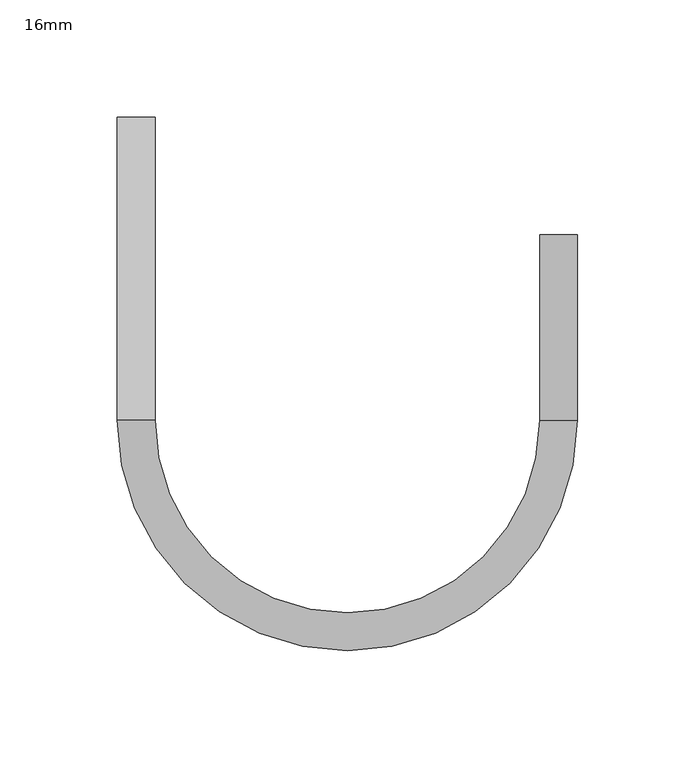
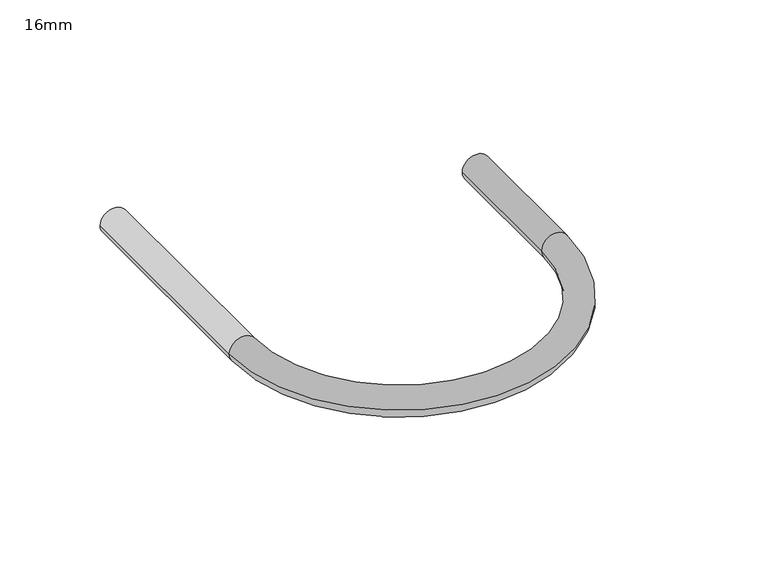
"""IFC4 building model written with IfcOpenShell, lengths in millimetres: pipe fitting geometry, PipeAccessory_HTA_CPVC_ExpansionJoints : 16mm."""

from ifc_helpers import new_model, si_unit, point, frame, origin, origin_with_axes, place, context, project, spatial, circle_curve, ellipse_curve, trimmed, source, transform, mapped, element, save
from ifc_brep_helpers import plane_surface, cylinder_surface, revolved_surface, advanced_brep


def pipe_fitting_16mm_a639df83(model_context):
    return source(origin(), model_context, "Body", "AdvancedBrep", [
        advanced_brep(
        [(82.0, 79.0, 0.0), (98.0, 79.0, 0.0), (82.0, 0.0, 0.0), (98.0, 0.0, 0.0), (-98.0, 0.0, 0.0), (-82.0, 0.0, 0.0), (-82.0, 129.0, 0.0), (-98.0, 129.0, 0.0)],
        [
            (0, 1, circle_curve(frame((90.0, 79.0, 0.0), z_axis=(0.0, 1.0, 0.0), x_axis=(1.0, 0.0, 0.0)), 8.0)),
            (1, 0, circle_curve(frame((90.0, 79.0, 0.0), z_axis=(0.0, 1.0, 0.0), x_axis=(1.0, 0.0, 0.0)), 8.0)),
            (0, 2),
            (2, 3, circle_curve(frame((90.0, 0.0, 0.0), z_axis=(0.0, 1.0, 0.0), x_axis=(1.0, 0.0, 0.0)), 8.0)),
            (3, 1),
            (3, 2, circle_curve(frame((90.0, 0.0, 0.0), z_axis=(0.0, 1.0, 0.0), x_axis=(1.0, 0.0, 0.0)), 8.0)),
            (4, 3, circle_curve(origin_with_axes(), 98.0)),
            (2, 5, circle_curve(frame((0.0, 0.0, 0.0), z_axis=(0.0, 0.0, -1.0), x_axis=(1.0, 0.0, 0.0)), 82.0)),
            (5, 4, circle_curve(frame((-90.0, 0.0, 0.0), z_axis=(0.0, -1.0, 0.0), x_axis=(-1.0, 0.0, 0.0)), 8.0)),
            (4, 5, circle_curve(frame((-90.0, 0.0, 0.0), z_axis=(0.0, -1.0, 0.0), x_axis=(-1.0, 0.0, 0.0)), 8.0)),
            (6, 7, circle_curve(frame((-90.0, 129.0, 0.0), z_axis=(0.0, 1.0, 0.0), x_axis=(-1.0, 0.0, 0.0)), 8.0)),
            (7, 6, circle_curve(frame((-90.0, 129.0, 0.0), z_axis=(0.0, 1.0, 0.0), x_axis=(-1.0, 0.0, 0.0)), 8.0)),
            (5, 6),
            (7, 4),
        ],
        [
            plane_surface(frame((90.0, 79.0, 0.0), z_axis=(0.0, 1.0, 0.0), x_axis=(0.0, 0.0, 1.0))),
            cylinder_surface(frame((90.0, 79.0, 0.0), z_axis=(0.0, 1.0, 0.0), x_axis=(1.0, 0.0, 0.0)), 8.0),
            revolved_surface(trimmed(ellipse_curve(frame((90.0, 0.0, 0.0), z_axis=(0.0, 1.0, 0.0), x_axis=(1.0, 0.0, 0.0)), 8.0, 8.0), [point((82.0, 0.0, 0.0))], [point((98.0, 0.0, 0.0))], True, "CARTESIAN"), (0.0, 0.0, 0.0), (0.0, 0.0, -1.0)),
            revolved_surface(trimmed(ellipse_curve(frame((90.0, 0.0, 0.0), z_axis=(0.0, 1.0, 0.0), x_axis=(1.0, 0.0, 0.0)), 8.0, 8.0), [point((98.0, 0.0, 0.0))], [point((82.0, 0.0, 0.0))], True, "CARTESIAN"), (0.0, 0.0, 0.0), (0.0, 0.0, -1.0)),
            plane_surface(frame((-90.0, 129.0, 0.0), z_axis=(0.0, 1.0, 0.0), x_axis=(0.0, 0.0, 1.0))),
            cylinder_surface(frame((-90.0, 0.0, 0.0), z_axis=(0.0, -1.0, 0.0), x_axis=(-1.0, 0.0, 0.0)), 8.0),
        ],
        [
            (0, [[1, 2]]),
            (1, [[-1, 3, 4, 5]]),
            (1, [[-2, -5, 6, -3]]),
            (2, [[7, -4, 8, 9]]),
            (3, [[-8, -6, -7, 10]]),
            (4, [[11, 12]]),
            (5, [[-9, 13, -12, 14]]),
            (5, [[-10, -14, -11, -13]]),
        ],
    ),
    ])


if __name__ == "__main__":
    model = new_model("IFC4")
    model_context = context("Model", 3, world=origin())
    ifc_project = project(units=[si_unit("LENGTHUNIT", "METRE", prefix="MILLI")], contexts=[model_context])
    site = spatial("IfcSite", under=ifc_project)
    building = spatial("IfcBuilding", under=site)
    placement = place(None, origin())
    pipe_fitting_16mm_shape = pipe_fitting_16mm_a639df83(model_context)
    element("IfcPipeFitting", 1, ObjectType="PipeAccessory_HTA_CPVC_ExpansionJoints : 16mm", at=placement, inside=building, context=model_context, shape_type="MappedRepresentation", body=[
        mapped(pipe_fitting_16mm_shape, transform((0.0, 0.0, 0.0), x_axis=(1.0, 0.0, 0.0), y_axis=(0.0, 1.0, 0.0), z_axis=(0.0, 0.0, 1.0))),
    ])
    save(model, "model.ifc")
